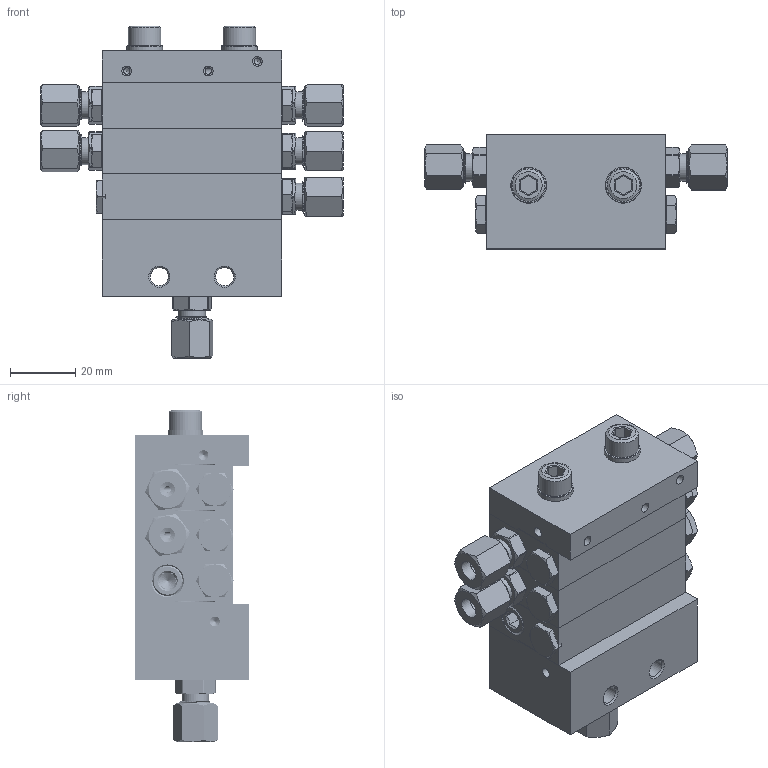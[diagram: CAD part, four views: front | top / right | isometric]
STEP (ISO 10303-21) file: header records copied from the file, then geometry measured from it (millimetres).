
FILE_DESCRIPTION (( 'STEP AP214' ), '1' );
FILE_NAME ('STW_XV_0143_05_0501_5_Auslässe.STEP', '2026-02-04T13:26:04', ( '' ), ( '' ), 'SwSTEP 2.0', 'SolidWorks 2022', '' );
FILE_SCHEMA (( 'AUTOMOTIVE_DESIGN' ));
Length unit declared in the file: millimetre
Products named in the file (14): 991214010601; STW_XV_END; STW_XV_MITTEL_1; 991214010601_Koerper; Verschlussstopfen_1_8_2; 991214010601_Schneidring; 991214010601_Mutter; U_Scheibe_6; Verschlussstopfen_1_8; STW_XV_0143_05_0501_5_Auslässe; M6X65_DIN_912; STW_XV_ENGANG; STW_XV_Kolbenanschlag; STW_XV_Verbindungsstopen
Assembly tree (34 placements, depth 3):
  STW_XV_0143_05_0501_5_Auslässe
    STW_XV_ENGANG
    STW_XV_MITTEL_1  x3
    STW_XV_END
    Verschlussstopfen_1_8_2  x6
    STW_XV_Kolbenanschlag  x6
    STW_XV_Verbindungsstopen  x3
    M6X65_DIN_912  x2
    U_Scheibe_6  x2
    Verschlussstopfen_1_8
    991214010601  x6
      991214010601_Koerper
      991214010601_Schneidring
      991214010601_Mutter
Bounding box: 92.76 x 35 x 101.68 mm (x, y, z)
Volume: 137456.6 mm3; surface area: 71463.9 mm2
Topology: 43 solids, 43 shells, 1485 faces, 3767 edges, 2422 vertices
Faces by surface type: plane 691, cylinder 413, cone 243, bspline 132, torus 6
Full cylindrical faces by diameter (mm): 2 x89, 3 x10, 4.5 x6, 5 x38, 5.5 x2, 5.9 x2, 6 x8, 6.2 x14, 6.4 x2, 6.5 x6, 7 x6, 7.4 x6, 7.67 x6, 8 x12, 8.3 x6, 8.4 x3, 8.6 x15, 9 x13, 9.7 x7, 9.73 x3, 9.8 x42, 10 x8, 11 x2, 15 x1
Entity records: 41312 total; most frequent: CARTESIAN_POINT 20621, ORIENTED_EDGE 2808, DIRECTION 2379, EDGE_CURVE 1404, VERTEX_POINT 997, EDGE_LOOP 925, AXIS2_PLACEMENT_3D 831, FACE_OUTER_BOUND 744
